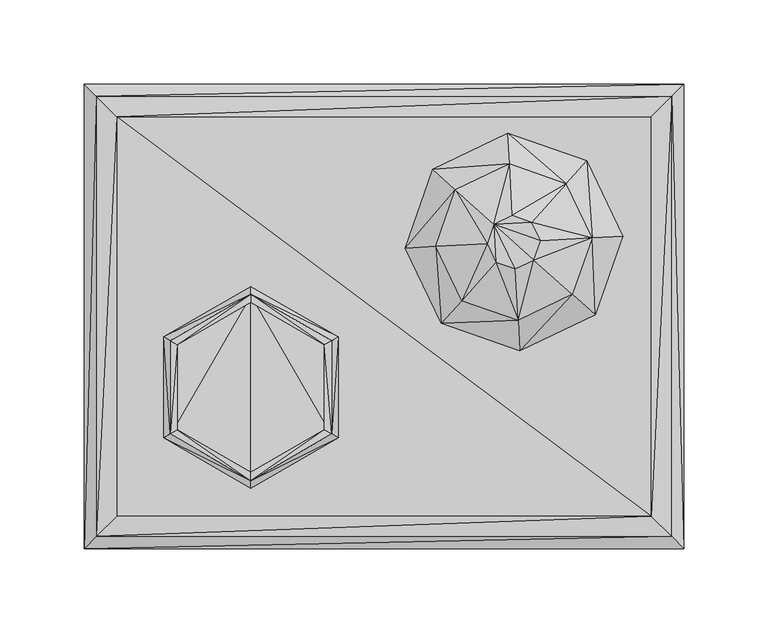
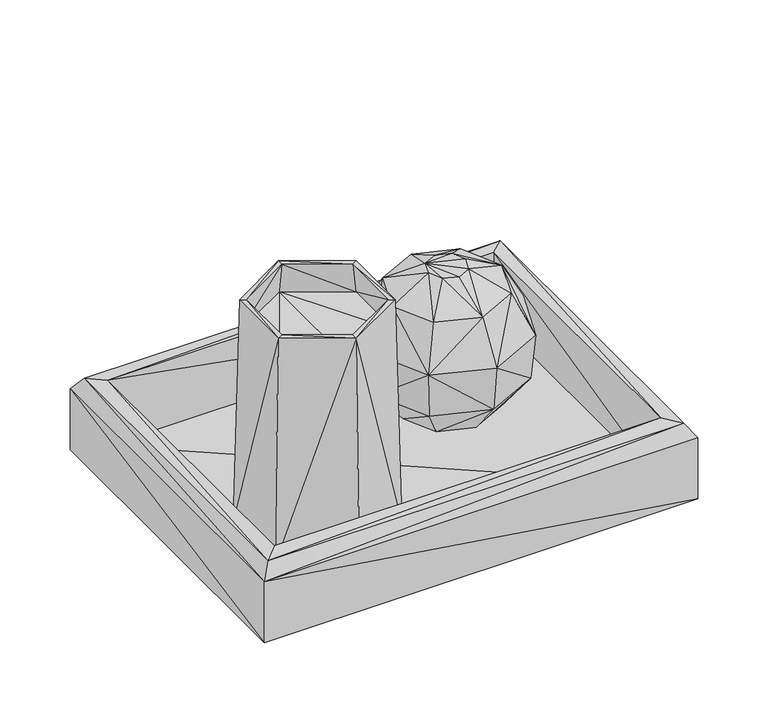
"""IFC4 building model written with IfcOpenShell, lengths in millimetres: geographic element geometry, Enscape AssetDefinition - Candle Tray 02 : Enscape AssetDefinition - Candle Tray 02."""

from ifc_helpers import new_model, si_unit, origin, place, context, project, spatial, faceted_brep, source, transform, mapped, element, save


def geographic_element_60de37d3(model_context):
    return source(origin(), model_context, "Body", "Brep", [
        faceted_brep([(-178.5520017, -138.2690072, 0.101), (178.5520017, -138.2690072, 0.101), (-178.5520017, -138.2690072, 53.2680005), (-178.5520017, 138.2690072, 0.101), (178.5520017, 138.2690072, 0.101), (178.5520017, -138.2690072, 53.2680005), (-178.5520017, 138.2690072, 53.2680005), (178.5520017, 138.2690072, 53.2680005), (171.1670011, -130.885005, 64.319998), (171.1670011, 130.885005, 64.319998), (-171.1670011, 130.885005, 64.319998), (-159.130007, 118.8480034, 65.6950027), (-171.1670011, -130.885005, 64.319998), (159.130007, 118.8480034, 65.6950027), (159.130007, -118.8480034, 65.6950027), (-159.130007, -118.8480034, 65.6950027), (-159.130007, 118.8480034, 8.8470001), (159.130007, 118.8480034, 8.8470001), (159.130007, -118.8480034, 8.8470001), (-159.130007, -118.8480034, 8.8470001)], [[[0, 1, 2]], [[0, 3, 1]], [[1, 4, 5]], [[2, 1, 5]], [[1, 3, 4]], [[3, 0, 6]], [[6, 0, 2]], [[4, 3, 7]], [[7, 3, 6]], [[5, 4, 7]], [[5, 8, 2]], [[8, 5, 9]], [[9, 5, 7]], [[6, 10, 7]], [[7, 10, 9]], [[2, 10, 6]], [[10, 11, 9]], [[12, 10, 2]], [[12, 11, 10]], [[13, 14, 9]], [[9, 14, 8]], [[9, 11, 13]], [[8, 14, 12]], [[2, 8, 12]], [[15, 11, 12]], [[12, 14, 15]], [[11, 15, 16]], [[13, 11, 17]], [[17, 11, 16]], [[14, 13, 18]], [[18, 13, 17]], [[15, 14, 19]], [[19, 14, 18]], [[16, 15, 19]], [[19, 18, 16]], [[16, 18, 17]]]),
        faceted_brep([(-127.2989959, -14.529, 205.6539953), (-131.2299967, -12.259, 13.061), (-127.2989959, -70.0159967, 205.6539953), (-79.2450011, 13.2149998, 205.6539953), (-129.4970065, -13.2600004, 10.0809997), (-129.4970065, -71.2860003, 10.0809997), (-79.2450011, 17.7549999, 13.061), (-79.2450011, 15.7529991, 10.0809997), (-131.2299967, -72.2870007, 13.061), (-123.0309978, -16.9929992, 205.6539953), (-123.0299994, -67.5520003, 205.6539953), (-126.5559942, -14.9579998, 179.3940067), (-79.2450011, 8.2860002, 205.6539953), (-126.5559942, -69.5879981, 179.3940067), (-79.2450011, 12.3570003, 179.3940067), (-35.459999, -16.9929992, 205.6539953), (-31.9349989, -14.9579998, 179.3940067), (-79.2450011, -96.9019979, 179.3940067), (-31.9349989, -69.5879981, 179.3940067), (-79.2450011, -92.8319991, 205.6539953), (-35.4610011, -67.5520003, 205.6539953), (-31.1910007, -14.529, 205.6539953), (-31.1910007, -70.0159967, 205.6539953), (-27.2599999, -12.259, 13.061), (-79.2450011, -97.7609977, 205.6539953), (-27.2599999, -72.2870007, 13.061), (-79.2450011, -102.3000032, 13.061), (-79.2450011, -100.2990007, 10.0809997), (-28.9929993, -71.2860003, 10.0809997), (-79.2450011, -96.9099998, 8.8470001), (-126.5619993, -69.5910007, 8.8470001), (-126.5619993, -14.9539998, 8.8470001), (-31.9279991, -69.5910007, 8.8470001), (-28.9929993, -13.2600004, 10.0809997), (-31.9279991, -14.9539998, 8.8470001), (-79.2450011, 12.3640001, 8.8470001)], [[[0, 1, 2]], [[0, 3, 1]], [[4, 5, 1]], [[6, 7, 1]], [[2, 1, 8]], [[1, 3, 6]], [[1, 5, 8]], [[1, 7, 4]], [[0, 9, 3]], [[2, 9, 0]], [[9, 10, 11]], [[9, 11, 12]], [[10, 9, 2]], [[3, 9, 12]], [[11, 10, 13]], [[12, 11, 14]], [[13, 14, 11]], [[15, 12, 16]], [[16, 12, 14]], [[15, 3, 12]], [[14, 17, 18]], [[14, 18, 16]], [[14, 13, 17]], [[10, 17, 13]], [[19, 17, 10]], [[19, 20, 17]], [[17, 20, 18]], [[18, 20, 16]], [[16, 20, 15]], [[21, 15, 22]], [[21, 3, 15]], [[22, 15, 20]], [[21, 23, 3]], [[3, 23, 6]], [[21, 22, 23]], [[22, 24, 25]], [[22, 20, 24]], [[23, 22, 25]], [[24, 20, 19]], [[19, 10, 24]], [[2, 8, 24]], [[24, 8, 26]], [[25, 24, 26]], [[24, 10, 2]], [[5, 27, 8]], [[8, 27, 26]], [[26, 27, 25]], [[25, 27, 28]], [[5, 29, 27]], [[29, 28, 27]], [[5, 4, 30]], [[30, 29, 5]], [[31, 29, 30]], [[32, 28, 29]], [[31, 32, 29]], [[28, 33, 25]], [[32, 33, 28]], [[34, 33, 32]], [[31, 34, 32]], [[33, 7, 23]], [[33, 34, 7]], [[25, 33, 23]], [[34, 31, 35]], [[7, 34, 35]], [[35, 31, 7]], [[23, 7, 6]], [[7, 31, 4]], [[30, 4, 31]]]),
        faceted_brep([(74.7530013, 90.8489972, 110.6349975), (108.5020006, 79.0039971, 110.6349975), (73.7560019, 108.9079976, 76.7970011), (88.0070031, 56.113001, 127.7779937), (76.448001, 60.1699986, 127.7779937), (123.9899993, 46.7649996, 110.6349975), (120.5670014, 92.478998, 76.7970011), (65.4049963, 54.8649989, 127.7779937), (42.5140001, 75.3600001, 110.6349975), (29.0389992, 87.425001, 76.7970011), (30.6700002, 41.6119993, 110.6349975), (61.3479987, 43.3060005, 127.7779937), (12.6099996, 40.6149998, 76.7970011), (31.8409987, 84.916003, 38.612999), (16.3659994, 40.8219993, 38.612999), (34.093, -4.102, 76.7970011), (46.1580008, 9.3729999, 110.6349975), (66.6529983, 32.2640017, 127.7779937), (79.9060017, -2.472, 110.6349975), (80.9039995, -20.5310006, 76.7970011), (80.6960016, -16.7759992, 38.612999), (36.6020016, -1.3, 38.612999), (40.0060005, 42.1280004, 8.9539997), (52.3950011, 16.3390003, 8.9539997), (79.3910027, 6.8640001, 8.9539997), (122.818999, 3.46, 38.612999), (125.6210059, 0.952, 76.7970011), (112.1459976, 13.0160004, 110.6349975), (105.1789969, 19.2530006, 8.9539997), (138.2939965, 47.5549996, 38.612999), (114.6539971, 46.2489985, 8.9539997), (142.049998, 47.7619991, 76.7970011), (118.0580035, 89.6769986, 38.612999), (102.2650003, 72.0380023, 8.9539997), (75.2689987, 81.5130025, 8.9539997), (73.9639997, 105.1530018, 38.612999), (89.2549977, 33.512, 127.7779937), (93.3109969, 45.0709984, 127.7779937), (78.2120004, 28.2070003, 127.7779937), (49.4810008, 69.1229999, 8.9539997)], [[[0, 1, 2]], [[3, 1, 4]], [[1, 5, 6]], [[2, 1, 6]], [[4, 1, 0]], [[3, 5, 1]], [[0, 7, 4]], [[7, 3, 4]], [[8, 7, 0]], [[8, 0, 9]], [[9, 0, 2]], [[10, 11, 8]], [[10, 8, 12]], [[8, 11, 7]], [[12, 8, 9]], [[9, 2, 13]], [[13, 12, 9]], [[14, 12, 13]], [[14, 15, 12]], [[15, 10, 12]], [[10, 16, 11]], [[16, 10, 15]], [[11, 16, 17]], [[17, 7, 11]], [[16, 18, 17]], [[16, 15, 18]], [[19, 15, 20]], [[21, 15, 14]], [[20, 15, 21]], [[18, 15, 19]], [[14, 22, 21]], [[14, 13, 22]], [[23, 20, 21]], [[21, 22, 23]], [[20, 24, 25]], [[24, 20, 23]], [[25, 19, 20]], [[26, 19, 25]], [[18, 19, 27]], [[27, 19, 26]], [[25, 28, 29]], [[29, 26, 25]], [[25, 24, 28]], [[22, 30, 24]], [[24, 30, 28]], [[22, 24, 23]], [[29, 28, 30]], [[31, 26, 29]], [[32, 29, 33]], [[32, 6, 29]], [[33, 29, 30]], [[29, 6, 31]], [[30, 34, 33]], [[22, 34, 30]], [[32, 33, 35]], [[35, 33, 34]], [[35, 6, 32]], [[2, 6, 35]], [[6, 5, 31]], [[5, 26, 31]], [[27, 5, 36]], [[27, 26, 5]], [[37, 5, 3]], [[36, 5, 37]], [[27, 36, 18]], [[7, 38, 36]], [[18, 36, 38]], [[7, 36, 37]], [[7, 37, 3]], [[7, 17, 38]], [[17, 18, 38]], [[13, 2, 35]], [[35, 34, 13]], [[22, 13, 39]], [[13, 34, 39]], [[34, 22, 39]]]),
    ])


if __name__ == "__main__":
    model = new_model("IFC4")
    model_context = context("Model", 3, world=origin())
    ifc_project = project(units=[si_unit("LENGTHUNIT", "METRE", prefix="MILLI")], contexts=[model_context])
    site = spatial("IfcSite", under=ifc_project)
    building = spatial("IfcBuilding", under=site)
    placement = place(None, origin())
    geographic_element_shape = geographic_element_60de37d3(model_context)
    element("IfcGeographicElement", 1, ObjectType="Enscape AssetDefinition - Candle Tray 02 : Enscape AssetDefinition - Candle Tray 02", at=placement, inside=building, context=model_context, shape_type="MappedRepresentation", body=[
        mapped(geographic_element_shape, transform((0.0, 0.0, 0.0), x_axis=(1.0, 0.0, 0.0), y_axis=(0.0, 1.0, 0.0), z_axis=(0.0, 0.0, 1.0))),
    ])
    save(model, "model.ifc")
